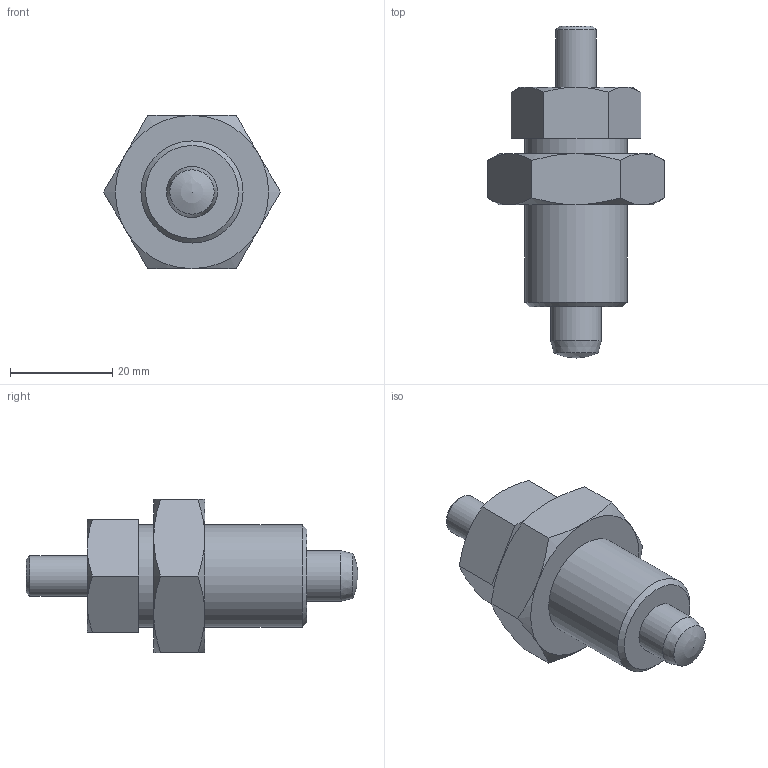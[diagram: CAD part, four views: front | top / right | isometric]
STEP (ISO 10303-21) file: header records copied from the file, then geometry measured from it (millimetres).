
FILE_DESCRIPTION( ( 'STEP AP203' ), '1' );
FILE_NAME( 'C:/Temp/Ganter_Step_05_03_2020/data/3_1/gn617_n/gn617n_gk/Stainless Steel Indexing plunger GN 617-10-GK-NI (deactivated-3).stp', '2020-03-12T08:43:16', ( 'License CC BY-ND 4.0' ), ( 'CADENAS' ), ' ', 'PARTsolutions', ' ' );
FILE_SCHEMA( ( 'CONFIG_CONTROL_DESIGN' ) );
Length unit declared in the file: millimetre
Products named in the file (4): Stainless Steel Indexing plunger GN 617-10-GK-NI (deactivated-3); _STAINLESS STEEL - Indexing plunger GN 617-10-GK-NI (3)-2; _STAINLESS STEEL - Indexing plunger GN 617-10-GK-NI (0)-1; _STAINLESS STEEL - Indexing plunger GN 617-10-GK-NI-3
Assembly tree (3 placements, depth 2):
  Stainless Steel Indexing plunger GN 617-10-GK-NI (deactivated-3)
    _STAINLESS STEEL - Indexing plunger GN 617-10-GK-NI (3)-2
    _STAINLESS STEEL - Indexing plunger GN 617-10-GK-NI (0)-1
    _STAINLESS STEEL - Indexing plunger GN 617-10-GK-NI-3
Bounding box: 34.64 x 65 x 30 mm (x, y, z)
Volume: 19116.3 mm3; surface area: 10449.3 mm2
Topology: 3 solids, 3 shells, 56 faces, 111 edges, 66 vertices
Faces by surface type: plane 23, cone 23, cylinder 9, sphere 1
Full cylindrical faces by diameter (mm): 8 x1, 10 x4, 18 x2, 18.376 x1, 20 x1
Entity records: 1641 total; most frequent: CARTESIAN_POINT 445, DIRECTION 220, ORIENTED_EDGE 190, AXIS2_PLACEMENT_3D 101, EDGE_CURVE 95, EDGE_LOOP 80, VERTEX_POINT 66, FACE_OUTER_BOUND 65
